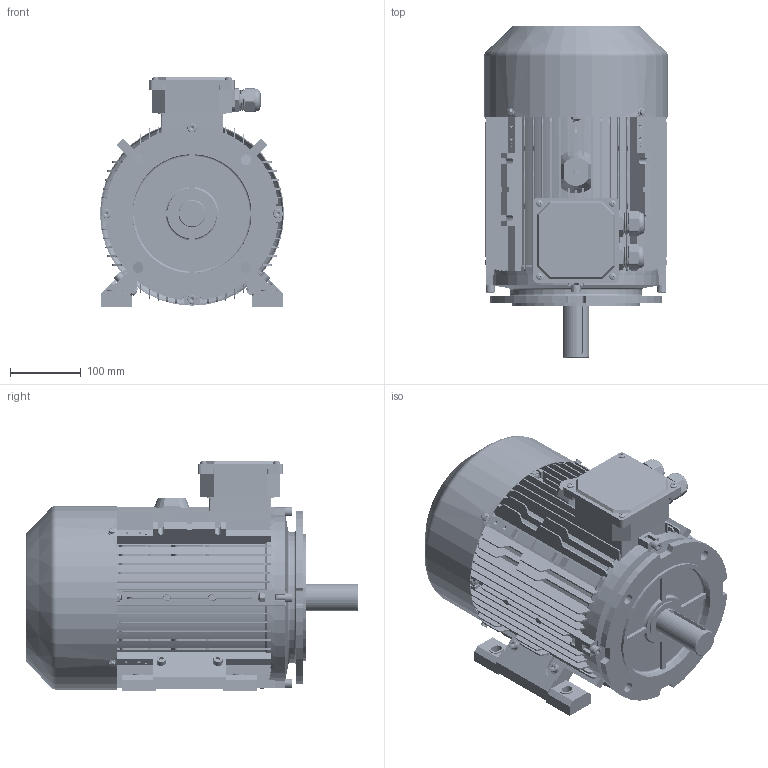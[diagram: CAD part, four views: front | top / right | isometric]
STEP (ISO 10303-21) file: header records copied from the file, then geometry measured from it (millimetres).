
FILE_DESCRIPTION (( 'STEP AP203' ), '1' );
FILE_NAME ('ME3-132S B35R 3D.STEP', '2024-07-27T02:23:01', ( 'User' ), ( 'China' ), 'SwSTEP 2.0', 'SolidWorks 2018', '' );
FILE_SCHEMA (( 'CONFIG_CONTROL_DESIGN' ));
Length unit declared in the file: millimetre
Products named in the file (19): MS112-132諉盄碟裔; M24 蹟杶簸; 40X58X7蚐猾; hexagon socket head cap screws gb_GB_FASTENER_SCREWS_HSHCS M8X40-S; ME3-132S儂褲; ME3-132B5R傷裔; hex nuts-style normal-grades ab gb_GB_HEXAGON_TYPE10 M8X1-S; ME3-132S菁褐; ME3-132S B35R   3D; spring lock washers--normal type gb_GB_FASTENER_WASHER_SW 8; ME3-132 B3傷裔; hexagon socket head cap screws gb_GB_FASTENER_SCREWS_HSHCS M8X30-S; deep groove ball bearings gb_Rolling bearings 6308 GB 276-94; ME3-132瑞欶; ME3-132S蛌粣; hex flange bolts-heavy grade b gb_GB_FASTENER_BOLT_HFBB M5X10-S; MS112-132 諉盄碟釱; cross recessed pan head screws gb_GB_CROSS_SCREWS_TYPE1 M5X8-8  H type-S; M24 蹟杶
Assembly tree (55 placements, depth 2):
  ME3-132S B35R   3D
    ME3-132S儂褲
    ME3-132S菁褐  x2
    ME3-132 B3傷裔
    deep groove ball bearings gb_Rolling bearings 6308 GB 276-94  x2
    ME3-132S蛌粣
    MS112-132 諉盄碟釱
    M24 蹟杶  x2
    M24 蹟杶簸  x2
    hexagon socket head cap screws gb_GB_FASTENER_SCREWS_HSHCS M8X40-S  x7
    hex nuts-style normal-grades ab gb_GB_HEXAGON_TYPE10 M8X1-S  x11
    spring lock washers--normal type gb_GB_FASTENER_WASHER_SW 8  x4
    hexagon socket head cap screws gb_GB_FASTENER_SCREWS_HSHCS M8X30-S  x5
    ME3-132瑞欶
    hex flange bolts-heavy grade b gb_GB_FASTENER_BOLT_HFBB M5X10-S  x4
    cross recessed pan head screws gb_GB_CROSS_SCREWS_TYPE1 M5X8-8  H type-S  x8
    MS112-132諉盄碟裔
    40X58X7蚐猾
    ME3-132B5R傷裔
Bounding box: 259.6 x 467.96 x 325 mm (x, y, z)
Volume: 3746268.4 mm3; surface area: 1766843.2 mm2
Topology: 56 solids, 57 shells, 8490 faces, 20633 edges, 12240 vertices
Faces by surface type: cone 3174, plane 2550, cylinder 2406, torus 240, sphere 76, bspline 44
Entity records: 138947 total; most frequent: CARTESIAN_POINT 35263, ORIENTED_EDGE 21676, DIRECTION 20201, EDGE_CURVE 10838, VERTEX_POINT 6934, AXIS2_PLACEMENT_3D 6737, LINE 6727, VECTOR 6727
